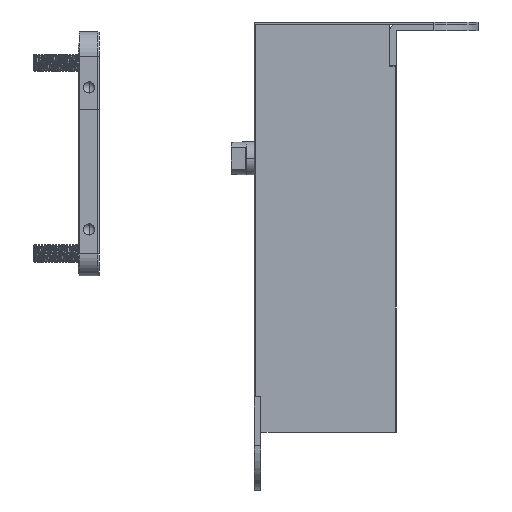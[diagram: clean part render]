
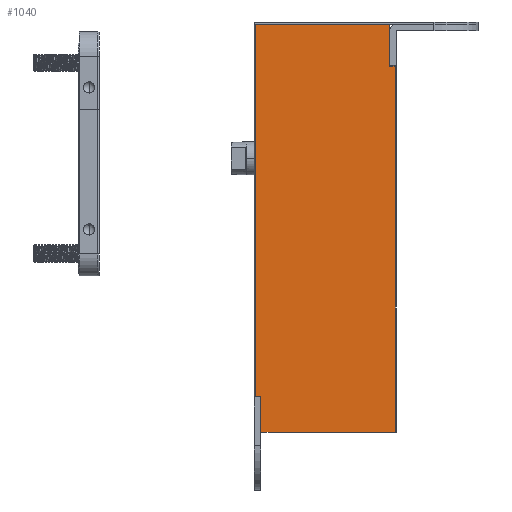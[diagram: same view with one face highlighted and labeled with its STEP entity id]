
A CAD part, left-side view. The second image highlights one B-rep face of the part: STEP entity #1040.
In plain terms, the highlighted planar face has unit normal (-1, 0, 0).
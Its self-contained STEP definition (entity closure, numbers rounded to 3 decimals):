
#5=DIRECTION('',(0.,-1.,0.));
#6=VECTOR('',#5,60.5);
#7=CARTESIAN_POINT('',(-20.,29.,-92.));
#8=LINE('',#7,#6);
#113=DIRECTION('',(0.,-1.,0.));
#114=VECTOR('',#113,60.5);
#115=CARTESIAN_POINT('',(-20.,31.5,92.));
#116=LINE('',#115,#114);
#165=DIRECTION('',(0.,0.,-1.));
#166=VECTOR('',#165,19.);
#167=CARTESIAN_POINT('',(-20.,-29.,92.));
#168=LINE('',#167,#166);
#169=DIRECTION('',(0.,1.,0.));
#170=VECTOR('',#169,2.5);
#171=CARTESIAN_POINT('',(-20.,-31.5,73.));
#172=LINE('',#171,#170);
#173=DIRECTION('',(0.,0.,-1.));
#174=VECTOR('',#173,165.);
#175=CARTESIAN_POINT('',(-20.,-31.5,73.));
#176=LINE('',#175,#174);
#177=DIRECTION('',(0.,0.,1.));
#178=VECTOR('',#177,16.);
#179=CARTESIAN_POINT('',(-20.,29.,-92.));
#180=LINE('',#179,#178);
#181=DIRECTION('',(0.,-1.,0.));
#182=VECTOR('',#181,2.5);
#183=CARTESIAN_POINT('',(-20.,31.5,-76.));
#184=LINE('',#183,#182);
#185=DIRECTION('',(0.,0.,-1.));
#186=VECTOR('',#185,168.);
#187=CARTESIAN_POINT('',(-20.,31.5,92.));
#188=LINE('',#187,#186);
#714=CARTESIAN_POINT('',(-20.,31.5,92.));
#716=VERTEX_POINT('',#714);
#722=CARTESIAN_POINT('',(-20.,-31.5,-92.));
#724=VERTEX_POINT('',#722);
#755=CARTESIAN_POINT('',(-20.,29.,-92.));
#757=VERTEX_POINT('',#755);
#759=CARTESIAN_POINT('',(-20.,29.,-76.));
#760=VERTEX_POINT('',#759);
#761=CARTESIAN_POINT('',(-20.,31.5,-76.));
#762=VERTEX_POINT('',#761);
#799=CARTESIAN_POINT('',(-20.,-29.,92.));
#801=VERTEX_POINT('',#799);
#803=CARTESIAN_POINT('',(-20.,-29.,73.));
#804=VERTEX_POINT('',#803);
#805=CARTESIAN_POINT('',(-20.,-31.5,73.));
#806=VERTEX_POINT('',#805);
#1021=CARTESIAN_POINT('',(-20.,32.,-92.));
#1022=DIRECTION('',(-1.,0.,0.));
#1023=DIRECTION('',(0.,-1.,0.));
#1024=AXIS2_PLACEMENT_3D('',#1021,#1022,#1023);
#1025=PLANE('',#1024);
#1026=ORIENTED_EDGE('',*,*,#968,.T.);
#1028=ORIENTED_EDGE('',*,*,#1027,.F.);
#1030=ORIENTED_EDGE('',*,*,#1029,.T.);
#1031=ORIENTED_EDGE('',*,*,#890,.F.);
#1032=ORIENTED_EDGE('',*,*,#919,.T.);
#1034=ORIENTED_EDGE('',*,*,#1033,.F.);
#1036=ORIENTED_EDGE('',*,*,#1035,.F.);
#1037=ORIENTED_EDGE('',*,*,#991,.T.);
#1038=EDGE_LOOP('',(#1026,#1028,#1030,#1031,#1032,#1034,#1036,#1037));
#1039=FACE_OUTER_BOUND('',#1038,.F.);
#890=EDGE_CURVE('',#757,#724,#8,.T.);
#919=EDGE_CURVE('',#757,#760,#180,.T.);
#968=EDGE_CURVE('',#801,#804,#168,.T.);
#991=EDGE_CURVE('',#716,#801,#116,.T.);
#1027=EDGE_CURVE('',#806,#804,#172,.T.);
#1029=EDGE_CURVE('',#806,#724,#176,.T.);
#1033=EDGE_CURVE('',#762,#760,#184,.T.);
#1035=EDGE_CURVE('',#716,#762,#188,.T.);
#1040=ADVANCED_FACE('',(#1039),#1025,.T.);
